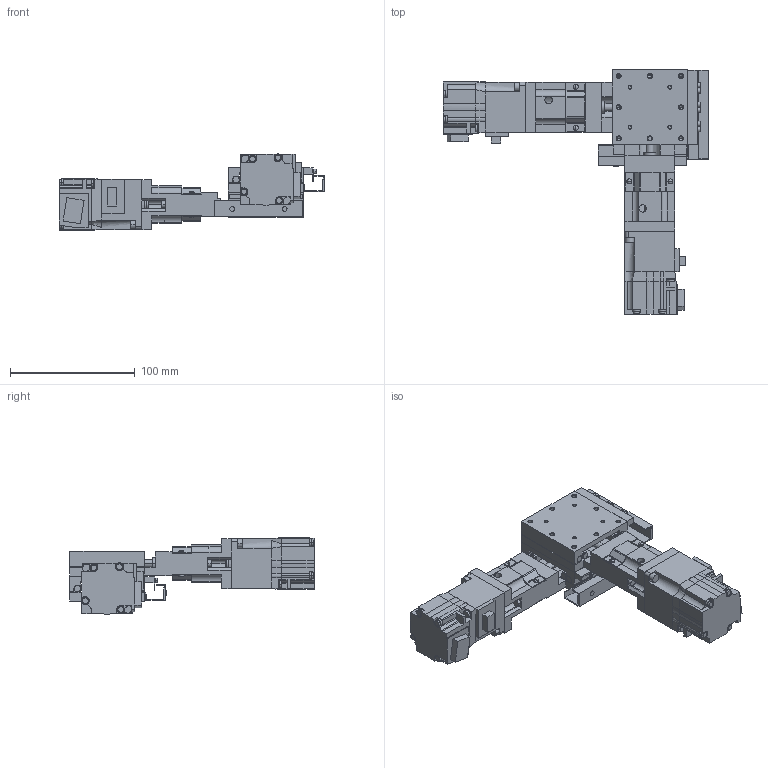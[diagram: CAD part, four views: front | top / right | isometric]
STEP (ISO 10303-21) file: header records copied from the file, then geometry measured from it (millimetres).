
FILE_DESCRIPTION(('STEP AP203'),'1');
FILE_NAME('C:/3D-Trans/3D_PMG615T-L□-UA+240122.step','2024-02-27T01:26:40',(' '),(' '),'Spatial InterOp 3D',' ',' ');
FILE_SCHEMA(('CONFIG_CONTROL_DESIGN'));
Length unit declared in the file: millimetre
Products named in the file (12): 1; 2; 3; 4; 5; 6; 7; 8; 9; 10; 11; 12
Bounding box: 213.3 x 195.9 x 61.21 mm (x, y, z)
Volume: 400740.4 mm3; surface area: 132270.1 mm2
Topology: 12 solids, 12 shells, 1376 faces, 3518 edges, 2214 vertices
Faces by surface type: plane 744, cylinder 470, cone 128, bspline 18, torus 16
Entity records: 42248 total; most frequent: CARTESIAN_POINT 7740, DIRECTION 7270, ORIENTED_EDGE 6924, EDGE_CURVE 3462, AXIS2_PLACEMENT_3D 2490, LINE 2290, VECTOR 2290, VERTEX_POINT 2214
